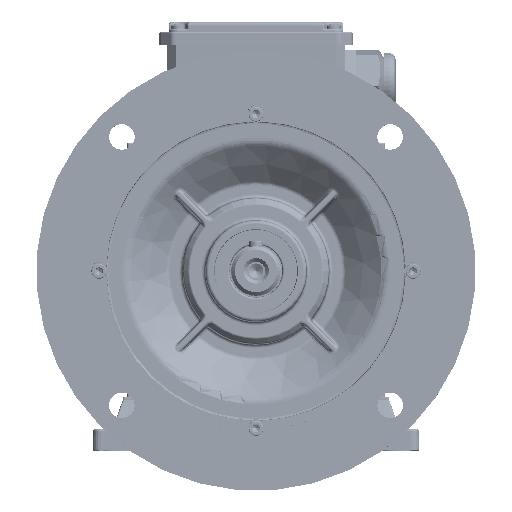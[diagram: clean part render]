
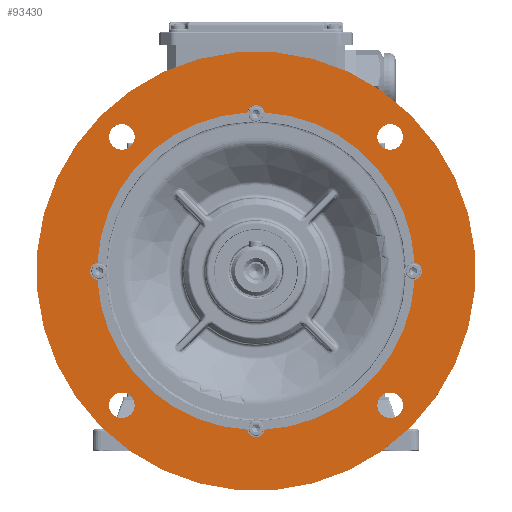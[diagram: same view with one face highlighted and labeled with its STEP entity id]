
A CAD part, top view. The second image highlights one B-rep face of the part: STEP entity #93430.
In plain terms, the highlighted planar face has unit normal (0, 0, 1).
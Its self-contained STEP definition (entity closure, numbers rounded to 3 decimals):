
#52461=PLANE('',#245851);
#93430=ADVANCED_FACE('',(#108903,#108904,#108905,#108906,#108907,#108908),
#52461,.T.);
#108903=FACE_BOUND('',#111632,.T.);
#108904=FACE_BOUND('',#111633,.T.);
#108905=FACE_BOUND('',#111634,.T.);
#108906=FACE_BOUND('',#111635,.T.);
#108907=FACE_BOUND('',#111636,.T.);
#108908=FACE_BOUND('',#111637,.T.);
#111632=EDGE_LOOP('',(#127561,#127562,#127563,#127564,#127565,#127566,#127567,
#127568));
#111633=EDGE_LOOP('',(#127569));
#111634=EDGE_LOOP('',(#127570));
#111635=EDGE_LOOP('',(#127571));
#111636=EDGE_LOOP('',(#127572));
#111637=EDGE_LOOP('',(#127573));
#127561=ORIENTED_EDGE('',*,*,#200280,.F.);
#127562=ORIENTED_EDGE('',*,*,#198588,.F.);
#127563=ORIENTED_EDGE('',*,*,#200281,.F.);
#127564=ORIENTED_EDGE('',*,*,#200279,.F.);
#127565=ORIENTED_EDGE('',*,*,#200282,.F.);
#127566=ORIENTED_EDGE('',*,*,#198596,.F.);
#127567=ORIENTED_EDGE('',*,*,#200283,.F.);
#127568=ORIENTED_EDGE('',*,*,#198576,.F.);
#127569=ORIENTED_EDGE('',*,*,#200284,.F.);
#127570=ORIENTED_EDGE('',*,*,#200285,.F.);
#127571=ORIENTED_EDGE('',*,*,#200286,.F.);
#127572=ORIENTED_EDGE('',*,*,#200287,.F.);
#127573=ORIENTED_EDGE('',*,*,#198768,.T.);
#181410=VERTEX_POINT('',#318715);
#181412=VERTEX_POINT('',#318718);
#181419=VERTEX_POINT('',#318743);
#181421=VERTEX_POINT('',#318747);
#181426=VERTEX_POINT('',#318769);
#181428=VERTEX_POINT('',#318772);
#181557=VERTEX_POINT('',#319999);
#182405=VERTEX_POINT('',#331136);
#182407=VERTEX_POINT('',#331140);
#182408=VERTEX_POINT('',#331148);
#182409=VERTEX_POINT('',#331150);
#182410=VERTEX_POINT('',#331152);
#182411=VERTEX_POINT('',#331154);
#198576=EDGE_CURVE('',#181410,#181412,#227173,.T.);
#198588=EDGE_CURVE('',#181421,#181419,#227180,.T.);
#198596=EDGE_CURVE('',#181426,#181428,#227185,.T.);
#198768=EDGE_CURVE('',#181557,#181557,#227216,.T.);
#200279=EDGE_CURVE('',#182407,#182405,#227752,.T.);
#200280=EDGE_CURVE('',#181419,#181410,#227753,.T.);
#200281=EDGE_CURVE('',#182405,#181421,#227754,.T.);
#200282=EDGE_CURVE('',#181428,#182407,#227755,.T.);
#200283=EDGE_CURVE('',#181412,#181426,#227756,.T.);
#200284=EDGE_CURVE('',#182408,#182408,#227757,.T.);
#200285=EDGE_CURVE('',#182409,#182409,#227758,.T.);
#200286=EDGE_CURVE('',#182410,#182410,#227759,.T.);
#200287=EDGE_CURVE('',#182411,#182411,#227760,.T.);
#227173=CIRCLE('',#244724,90.);
#227180=CIRCLE('',#244734,90.);
#227185=CIRCLE('',#244742,90.);
#227216=CIRCLE('',#244828,124.5);
#227752=CIRCLE('',#245841,90.);
#227753=CIRCLE('',#245843,5.);
#227754=CIRCLE('',#245844,5.);
#227755=CIRCLE('',#245845,5.);
#227756=CIRCLE('',#245846,5.);
#227757=CIRCLE('',#245847,7.25);
#227758=CIRCLE('',#245848,7.25);
#227759=CIRCLE('',#245849,7.25);
#227760=CIRCLE('',#245850,7.25);
#244724=AXIS2_PLACEMENT_3D('',#318717,#266123,#266124);
#244734=AXIS2_PLACEMENT_3D('',#318748,#266146,#266147);
#244742=AXIS2_PLACEMENT_3D('',#318771,#266163,#266164);
#244828=AXIS2_PLACEMENT_3D('',#319998,#266376,#266377);
#245841=AXIS2_PLACEMENT_3D('',#331141,#268708,#268709);
#245843=AXIS2_PLACEMENT_3D('',#331143,#268712,#268713);
#245844=AXIS2_PLACEMENT_3D('',#331144,#268714,#268715);
#245845=AXIS2_PLACEMENT_3D('',#331145,#268716,#268717);
#245846=AXIS2_PLACEMENT_3D('',#331146,#268718,#268719);
#245847=AXIS2_PLACEMENT_3D('',#331147,#268720,#268721);
#245848=AXIS2_PLACEMENT_3D('',#331149,#268722,#268723);
#245849=AXIS2_PLACEMENT_3D('',#331151,#268724,#268725);
#245850=AXIS2_PLACEMENT_3D('',#331153,#268726,#268727);
#245851=AXIS2_PLACEMENT_3D('',#331155,#268728,#268729);
#266123=DIRECTION('',(0.,0.,1.));
#266124=DIRECTION('',(-0.707,-0.707,0.));
#266146=DIRECTION('',(0.,0.,1.));
#266147=DIRECTION('',(-0.707,-0.707,0.));
#266163=DIRECTION('',(0.,0.,1.));
#266164=DIRECTION('',(-0.707,-0.707,0.));
#266376=DIRECTION('',(0.,0.,1.));
#266377=DIRECTION('',(-0.707,-0.707,0.));
#268708=DIRECTION('',(0.,0.,1.));
#268709=DIRECTION('',(-0.707,-0.707,0.));
#268712=DIRECTION('',(0.,0.,1.));
#268713=DIRECTION('',(-0.707,-0.707,0.));
#268714=DIRECTION('',(0.,0.,1.));
#268715=DIRECTION('',(-0.707,-0.707,0.));
#268716=DIRECTION('',(0.,0.,1.));
#268717=DIRECTION('',(-0.707,-0.707,0.));
#268718=DIRECTION('',(0.,0.,1.));
#268719=DIRECTION('',(-0.707,-0.707,0.));
#268720=DIRECTION('',(0.,0.,1.));
#268721=DIRECTION('',(-0.707,0.707,0.));
#268722=DIRECTION('',(0.,0.,1.));
#268723=DIRECTION('',(0.707,0.707,0.));
#268724=DIRECTION('',(0.,0.,1.));
#268725=DIRECTION('',(0.707,-0.707,0.));
#268726=DIRECTION('',(0.,0.,1.));
#268727=DIRECTION('',(-0.707,-0.707,0.));
#268728=DIRECTION('',(0.,0.,1.));
#268729=DIRECTION('',(-0.707,-0.707,0.));
#318715=CARTESIAN_POINT('',(4.925,-89.865,16.));
#318717=CARTESIAN_POINT('',(0.,0.,16.));
#318718=CARTESIAN_POINT('',(89.865,-4.925,16.));
#318743=CARTESIAN_POINT('',(-4.925,-89.865,16.));
#318747=CARTESIAN_POINT('',(-89.865,-4.925,16.));
#318748=CARTESIAN_POINT('',(0.,0.,16.));
#318769=CARTESIAN_POINT('',(89.865,4.925,16.));
#318771=CARTESIAN_POINT('',(0.,0.,16.));
#318772=CARTESIAN_POINT('',(4.925,89.865,16.));
#319998=CARTESIAN_POINT('',(0.,0.,16.));
#319999=CARTESIAN_POINT('',(-88.035,-88.035,16.));
#331136=CARTESIAN_POINT('',(-89.865,4.925,16.));
#331140=CARTESIAN_POINT('',(-4.925,89.865,16.));
#331141=CARTESIAN_POINT('',(0.,0.,16.));
#331143=CARTESIAN_POINT('',(0.,-89.,16.));
#331144=CARTESIAN_POINT('',(-89.,0.,16.));
#331145=CARTESIAN_POINT('',(0.,89.,16.));
#331146=CARTESIAN_POINT('',(89.,0.,16.));
#331147=CARTESIAN_POINT('',(-76.014,-76.014,16.));
#331148=CARTESIAN_POINT('',(-81.141,-70.887,16.));
#331149=CARTESIAN_POINT('',(-76.014,76.014,16.));
#331150=CARTESIAN_POINT('',(-70.887,81.141,16.));
#331151=CARTESIAN_POINT('',(76.014,76.014,16.));
#331152=CARTESIAN_POINT('',(81.141,70.887,16.));
#331153=CARTESIAN_POINT('',(76.014,-76.014,16.));
#331154=CARTESIAN_POINT('',(70.887,-81.141,16.));
#331155=CARTESIAN_POINT('',(0.,0.,16.));
